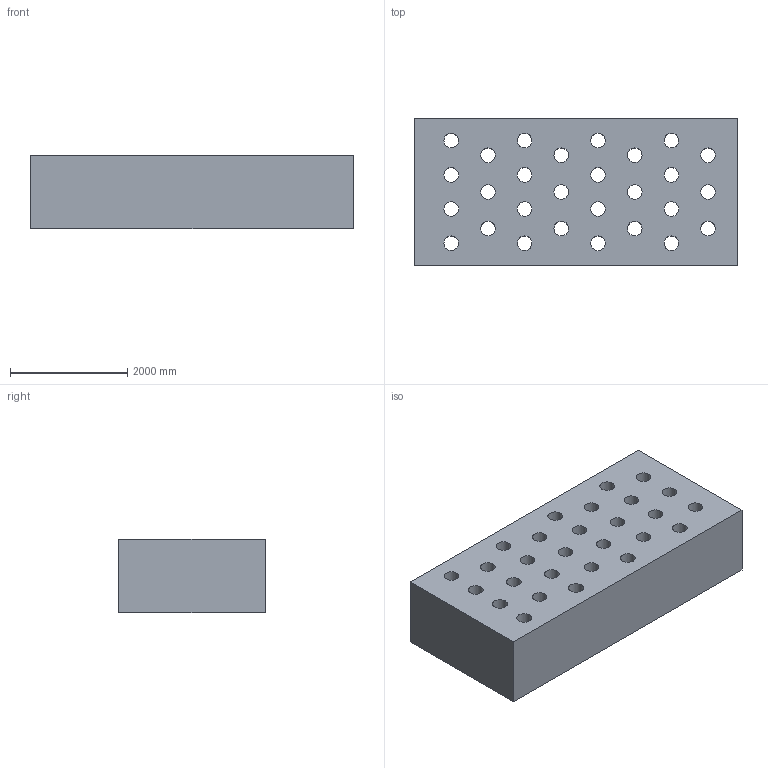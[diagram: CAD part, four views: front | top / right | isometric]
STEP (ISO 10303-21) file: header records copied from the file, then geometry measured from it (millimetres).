
FILE_DESCRIPTION(/* description */ ('STEP AP242','CAx-IF Rec.Pracs.---Representation and Presentation of Product Manufacturing Information (PMI)---4.0---2014-10-13','CAx-IF Rec.Pracs.---3D Tessellated Geometry---0.4---2014-09-14','2;1'),/* implementation_level */ '2;1');
FILE_NAME(/* name */ '64f1b62f457bc06967e809f7',/* time_stamp */ '2023-09-01T10:00:15Z',/* author */ (''),/* organization */ (''),/* preprocessor_version */ 'ST-DEVELOPER v19.4',/* originating_system */ ' ',/* authorisation */ ' ');
FILE_SCHEMA (('AP242_MANAGED_MODEL_BASED_3D_ENGINEERING_MIM_LF { 1 0 10303 442 1 1 4 }'));
Length unit declared in the file: metre
Products named in the file (1): Part 3
Bounding box: 5500 x 2500 x 1250 mm (x, y, z)
Volume: 15469441517.6 mm3; surface area: 72240042.1 mm2
Topology: 1 solids, 1 shells, 34 faces, 96 edges, 64 vertices
Faces by surface type: cylinder 28, plane 6
Full cylindrical faces by diameter (mm): 250 x28
Entity records: 1130 total; most frequent: DIRECTION 194, CARTESIAN_POINT 167, ORIENTED_EDGE 136, EDGE_LOOP 118, FACE_BOUND 118, AXIS2_PLACEMENT_3D 91, EDGE_CURVE 68, VERTEX_POINT 64
